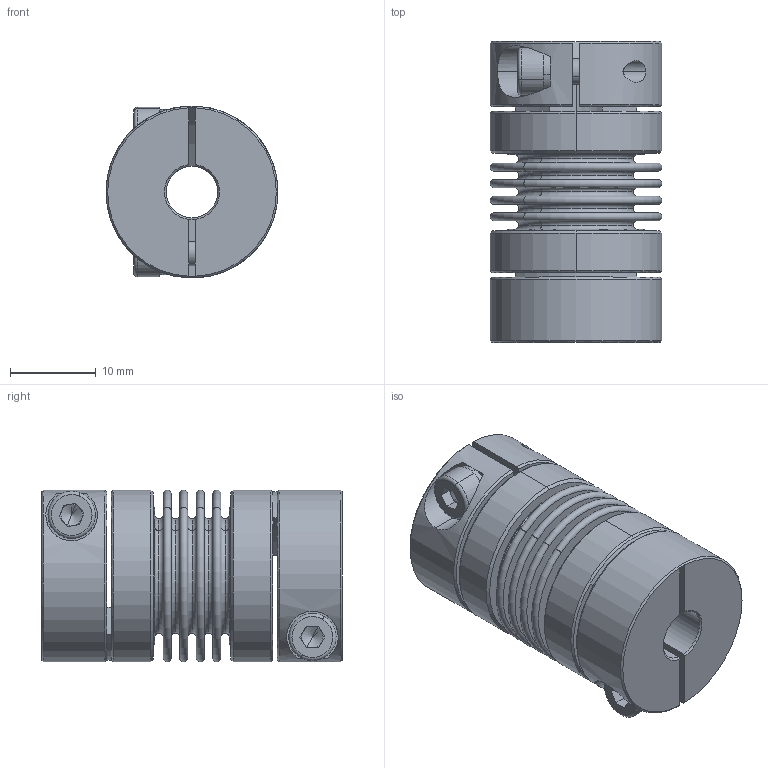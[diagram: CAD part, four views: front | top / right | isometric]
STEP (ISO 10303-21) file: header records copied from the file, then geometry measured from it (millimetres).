
FILE_DESCRIPTION (( 'STEP AP203' ), '1' );
FILE_NAME ('LB-B-D20L34-6-9.525.STEP', '2021-11-04T01:40:56', ( '' ), ( '' ), 'SwSTEP 2.0', 'SolidWorks 2018', '' );
FILE_SCHEMA (( 'CONFIG_CONTROL_DESIGN' ));
Length unit declared in the file: millimetre
Products named in the file (2): 零件4^LB-B-D20L34 波纹管联轴器-组装体; LB-B-D20L34-6-9.525
Assembly tree (1 placements, depth 2):
  LB-B-D20L34-6-9.525
    零件4^LB-B-D20L34 波纹管联轴器-组装体
Bounding box: 20 x 35 x 20 mm (x, y, z)
Volume: 5694.3 mm3; surface area: 9478.3 mm2
Topology: 1 solids, 1 shells, 246 faces, 572 edges, 354 vertices
Faces by surface type: plane 83, torus 68, cylinder 61, cone 34
Entity records: 7500 total; most frequent: CARTESIAN_POINT 1478, DIRECTION 1376, ORIENTED_EDGE 1136, AXIS2_PLACEMENT_3D 604, EDGE_CURVE 568, CIRCLE 354, VERTEX_POINT 354, EDGE_LOOP 288
